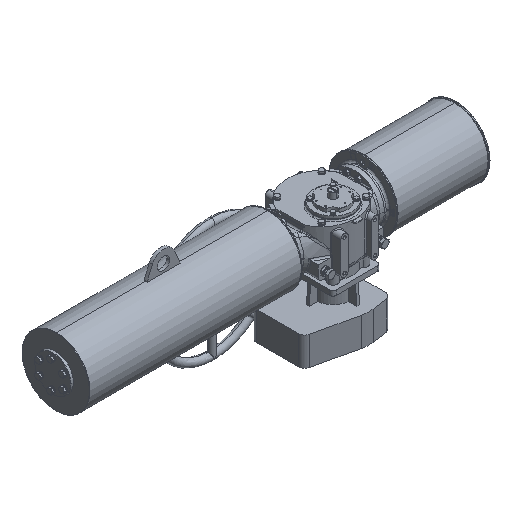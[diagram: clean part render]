
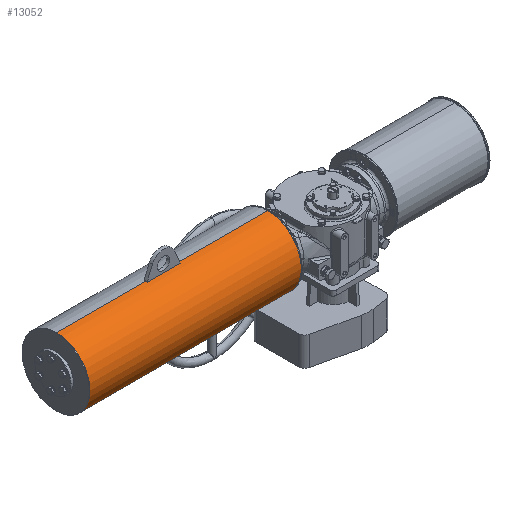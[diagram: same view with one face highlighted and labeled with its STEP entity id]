
A CAD part, isometric view. The second image highlights one B-rep face of the part: STEP entity #13052.
In plain terms, the highlighted cylindrical face has radius 109.5 mm (diameter 219 mm), a partial arc.
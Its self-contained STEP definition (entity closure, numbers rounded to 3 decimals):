
#2183 = VECTOR ( 'NONE', #76280, 1000. ) ;
#2282 = AXIS2_PLACEMENT_3D ( 'NONE', #52200, #16980, #61311 ) ;
#3630 = AXIS2_PLACEMENT_3D ( 'NONE', #27346, #55571, #83888 ) ;
#3646 = VERTEX_POINT ( 'NONE', #10178 ) ;
#4890 = VERTEX_POINT ( 'NONE', #85110 ) ;
#5478 = ORIENTED_EDGE ( 'NONE', *, *, #48439, .F. ) ;
#6691 = CARTESIAN_POINT ( 'NONE',  ( -839.5, 22.5, 167. ) ) ;
#8286 = AXIS2_PLACEMENT_3D ( 'NONE', #35561, #42956, #28614 ) ;
#8400 = ORIENTED_EDGE ( 'NONE', *, *, #9696, .F. ) ;
#9370 = DIRECTION ( 'NONE',  ( 0., -1., 0. ) ) ;
#9696 = EDGE_CURVE ( 'NONE', #59040, #67870, #26678, .T. ) ;
#10178 = CARTESIAN_POINT ( 'NONE',  ( -444., 17.5, 166.886 ) ) ;
#11969 = AXIS2_PLACEMENT_3D ( 'NONE', #12195, #25683, #40479 ) ;
#12195 = CARTESIAN_POINT ( 'NONE',  ( -153., 22.5, 57.5 ) ) ;
#13052 = ADVANCED_FACE ( 'NONE', ( #62543 ), #90843, .T. ) ;
#13484 = ORIENTED_EDGE ( 'NONE', *, *, #17451, .T. ) ;
#16712 = CIRCLE ( 'NONE', #28585, 109.5 ) ;
#16980 = DIRECTION ( 'NONE',  ( -1., 0., 0. ) ) ;
#17451 = EDGE_CURVE ( 'NONE', #38877, #28169, #46360, .T. ) ;
#18050 = EDGE_CURVE ( 'NONE', #28169, #23333, #42302, .T. ) ;
#23333 = VERTEX_POINT ( 'NONE', #69043 ) ;
#24855 = CARTESIAN_POINT ( 'NONE',  ( -843., 22.5, -52. ) ) ;
#25450 = ORIENTED_EDGE ( 'NONE', *, *, #90316, .T. ) ;
#25683 = DIRECTION ( 'NONE',  ( -1., 0., 0. ) ) ;
#26678 = LINE ( 'NONE', #6691, #59178 ) ;
#26868 = CARTESIAN_POINT ( 'NONE',  ( -839.5, 22.5, 167. ) ) ;
#27138 = DIRECTION ( 'NONE',  ( 1., 0., 0. ) ) ;
#27346 = CARTESIAN_POINT ( 'NONE',  ( -839.5, 22.5, 57.5 ) ) ;
#27688 = ORIENTED_EDGE ( 'NONE', *, *, #18050, .T. ) ;
#27830 = EDGE_CURVE ( 'NONE', #23333, #67870, #45984, .T. ) ;
#28169 = VERTEX_POINT ( 'NONE', #59748 ) ;
#28327 = AXIS2_PLACEMENT_3D ( 'NONE', #38563, #66819, #53793 ) ;
#28585 = AXIS2_PLACEMENT_3D ( 'NONE', #44611, #38581, #9370 ) ;
#28614 = DIRECTION ( 'NONE',  ( 0., 1., 0. ) ) ;
#29828 = AXIS2_PLACEMENT_3D ( 'NONE', #77194, #49350, #77649 ) ;
#30000 = ORIENTED_EDGE ( 'NONE', *, *, #57537, .T. ) ;
#34203 = CIRCLE ( 'NONE', #28327, 109.5 ) ;
#35561 = CARTESIAN_POINT ( 'NONE',  ( -552., 22.5, 57.5 ) ) ;
#37089 = CARTESIAN_POINT ( 'NONE',  ( -843., 22.5, 167. ) ) ;
#37863 = VECTOR ( 'NONE', #60740, 1000. ) ;
#38563 = CARTESIAN_POINT ( 'NONE',  ( -843., 22.5, 57.5 ) ) ;
#38581 = DIRECTION ( 'NONE',  ( 1., 0., 0. ) ) ;
#38877 = VERTEX_POINT ( 'NONE', #24855 ) ;
#40479 = DIRECTION ( 'NONE',  ( 0., 0., -1. ) ) ;
#42302 = CIRCLE ( 'NONE', #2282, 109.5 ) ;
#42956 = DIRECTION ( 'NONE',  ( -1., 0., 0. ) ) ;
#43651 = VECTOR ( 'NONE', #55093, 1000. ) ;
#44611 = CARTESIAN_POINT ( 'NONE',  ( -444., 22.5, 57.5 ) ) ;
#45984 = CIRCLE ( 'NONE', #11969, 109.5 ) ;
#46360 = LINE ( 'NONE', #87678, #37863 ) ;
#46412 = ORIENTED_EDGE ( 'NONE', *, *, #86914, .T. ) ;
#48439 = EDGE_CURVE ( 'NONE', #52032, #4890, #90376, .T. ) ;
#49193 = EDGE_LOOP ( 'NONE', ( #5478, #46412, #30000, #13484, #27688, #57306, #8400, #25450, #86816, #68388 ) ) ;
#49350 = DIRECTION ( 'NONE',  ( 1., 0., 0. ) ) ;
#51209 = CIRCLE ( 'NONE', #8286, 109.5 ) ;
#52032 = VERTEX_POINT ( 'NONE', #37089 ) ;
#52140 = VERTEX_POINT ( 'NONE', #56995 ) ;
#52200 = CARTESIAN_POINT ( 'NONE',  ( -153., 22.5, 57.5 ) ) ;
#52345 = CARTESIAN_POINT ( 'NONE',  ( -444., 22.5, 167. ) ) ;
#53793 = DIRECTION ( 'NONE',  ( 0., 0., -1. ) ) ;
#55093 = DIRECTION ( 'NONE',  ( 1., 0., 0. ) ) ;
#55391 = LINE ( 'NONE', #75820, #2183 ) ;
#55571 = DIRECTION ( 'NONE',  ( 1., 0., 0. ) ) ;
#56995 = CARTESIAN_POINT ( 'NONE',  ( -552., 17.5, 166.886 ) ) ;
#57306 = ORIENTED_EDGE ( 'NONE', *, *, #27830, .T. ) ;
#57537 = EDGE_CURVE ( 'NONE', #72236, #38877, #84602, .T. ) ;
#59040 = VERTEX_POINT ( 'NONE', #52345 ) ;
#59178 = VECTOR ( 'NONE', #27138, 1000. ) ;
#59748 = CARTESIAN_POINT ( 'NONE',  ( -153., 22.5, -52. ) ) ;
#60740 = DIRECTION ( 'NONE',  ( 1., 0., 0. ) ) ;
#61311 = DIRECTION ( 'NONE',  ( 0., 0., -1. ) ) ;
#62543 = FACE_OUTER_BOUND ( 'NONE', #49193, .T. ) ;
#62635 = EDGE_CURVE ( 'NONE', #52140, #3646, #55391, .T. ) ;
#64046 = CARTESIAN_POINT ( 'NONE',  ( -843., -87., 57.5 ) ) ;
#66618 = EDGE_CURVE ( 'NONE', #52140, #4890, #51209, .T. ) ;
#66819 = DIRECTION ( 'NONE',  ( 1., 0., 0. ) ) ;
#67870 = VERTEX_POINT ( 'NONE', #85275 ) ;
#68388 = ORIENTED_EDGE ( 'NONE', *, *, #66618, .T. ) ;
#69043 = CARTESIAN_POINT ( 'NONE',  ( -153., -87., 57.5 ) ) ;
#72236 = VERTEX_POINT ( 'NONE', #64046 ) ;
#75820 = CARTESIAN_POINT ( 'NONE',  ( -839.5, 17.5, 166.886 ) ) ;
#76280 = DIRECTION ( 'NONE',  ( 1., 0., 0. ) ) ;
#77194 = CARTESIAN_POINT ( 'NONE',  ( -843., 22.5, 57.5 ) ) ;
#77649 = DIRECTION ( 'NONE',  ( 0., 0., -1. ) ) ;
#83888 = DIRECTION ( 'NONE',  ( 0., 0., -1. ) ) ;
#84602 = CIRCLE ( 'NONE', #29828, 109.5 ) ;
#85110 = CARTESIAN_POINT ( 'NONE',  ( -552., 22.5, 167. ) ) ;
#85275 = CARTESIAN_POINT ( 'NONE',  ( -153., 22.5, 167. ) ) ;
#86816 = ORIENTED_EDGE ( 'NONE', *, *, #62635, .F. ) ;
#86914 = EDGE_CURVE ( 'NONE', #52032, #72236, #34203, .T. ) ;
#87678 = CARTESIAN_POINT ( 'NONE',  ( -839.5, 22.5, -52. ) ) ;
#90316 = EDGE_CURVE ( 'NONE', #59040, #3646, #16712, .T. ) ;
#90376 = LINE ( 'NONE', #26868, #43651 ) ;
#90843 = CYLINDRICAL_SURFACE ( 'NONE', #3630, 109.5 ) ;
